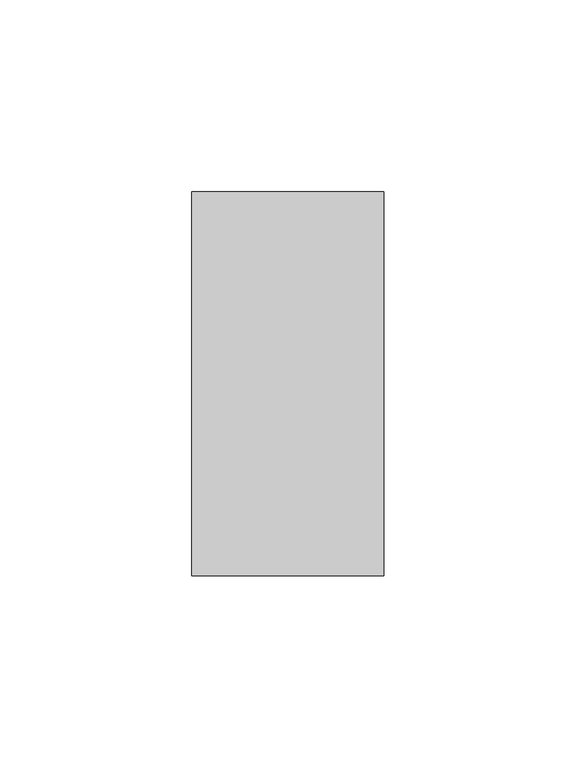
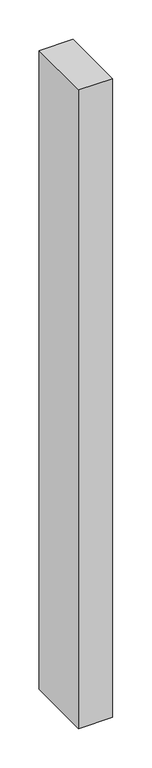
"""IFC4 building model written with IfcOpenShell, lengths in millimetres: member geometry, Прямоугольный импост : 50х100."""

from ifc_helpers import new_model, si_unit, frame, origin, place, context, project, spatial, polyline, outline, extrude, source, transform, mapped, element, save


def member_4302bc93(model_context):
    return source(origin(), model_context, "Body", "SweptSolid", [
        extrude(outline(polyline([(0.0, 50.0), (0.0, -50.0), (-50.0, -50.0), (-50.0, 50.0), (0.0, 50.0)])), frame((0.0, 0.0, -990.0), z_axis=(0.0, 0.0, 1.0), x_axis=(1.0, 0.0, 0.0)), (0.0, 0.0, 1.0), 990.0),
    ])


if __name__ == "__main__":
    model = new_model("IFC4")
    model_context = context("Model", 3, world=origin())
    ifc_project = project(units=[si_unit("LENGTHUNIT", "METRE", prefix="MILLI")], contexts=[model_context])
    site = spatial("IfcSite", under=ifc_project)
    building = spatial("IfcBuilding", under=site)
    placement = place(None, origin())
    member_shape = member_4302bc93(model_context)
    element("IfcMember", 1, ObjectType="Прямоугольный импост : 50х100", at=placement, inside=building, context=model_context, shape_type="MappedRepresentation", body=[
        mapped(member_shape, transform((0.0, 0.0, 0.0), x_axis=(1.0, 0.0, 0.0), y_axis=(0.0, 1.0, 0.0), z_axis=(0.0, 0.0, 1.0))),
    ])
    save(model, "model.ifc")
